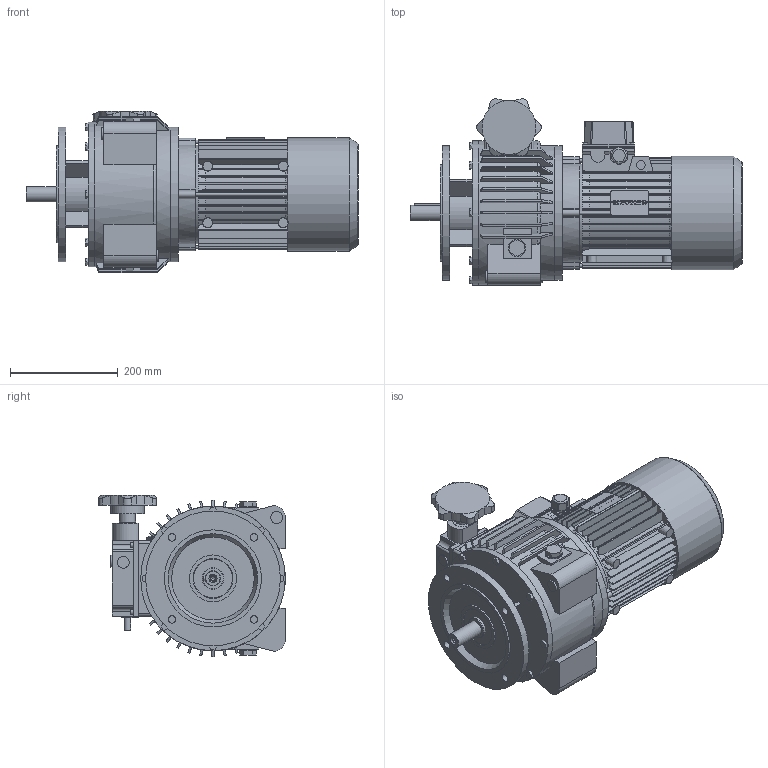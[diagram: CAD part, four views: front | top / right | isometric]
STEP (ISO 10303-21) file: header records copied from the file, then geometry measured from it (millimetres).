
FILE_DESCRIPTION(/* description */ ('STEP AP203'),/* implementation_level */ '2;1');
FILE_NAME(/* name */ 'S_050_S_M_F_250x28_250_28x60_CM_AD_1_TP_112_112M4_IC411_B5_A002_STD_1',/* time_stamp */ '2026-07-08T09:31:25+02:00',/* author */ ('License CC BY-ND 4.0'),/* organization */ ('CADENAS'),/* preprocessor_version */ 'ST-DEVELOPER v20',/* originating_system */ 'PARTsolutions',/* authorisation */ ' ');
FILE_SCHEMA (('CONFIG_CONTROL_DESIGN'));
Products named in the file (14): S 050 S M F 250x28 250 28x60 CM AD 1 TP 112 112M4 IC411 B5 A002 STD 1; Body-10103001050S; 1010300425; 10103010281; 11403012; FLANGIA_TP112B5-; CARCASSA_TP112M4112IC411B528X60NONO--; COPRIMORSETTIERA_TP112A002; PRESSACAVO_3; COP_TP_112M4_IC411_NO_-_-_-_-_STD; TIPPO_25; ALBERO_TP11228X60NO; 10103003; 10103026
Assembly tree (13 placements, depth 2):
  S 050 S M F 250x28 250 28x60 CM AD 1 TP 112 112M4 IC411 B5 A002 STD 1
    Body-10103001050S
    1010300425
    10103010281
    11403012
    FLANGIA_TP112B5-
    CARCASSA_TP112M4112IC411B528X60NONO--
    COPRIMORSETTIERA_TP112A002
    PRESSACAVO_3
    COP_TP_112M4_IC411_NO_-_-_-_-_STD
    TIPPO_25
    ALBERO_TP11228X60NO
    10103003
    10103026
Bounding box: 615.5 x 345.8 x 299 mm (x, y, z)
Volume: 22660982.5 mm3; surface area: 1466100.1 mm2
Topology: 13 solids, 13 shells, 2370 faces, 6406 edges, 4213 vertices
Faces by surface type: plane 1277, cylinder 897, cone 156, torus 27, bspline 8, sphere 5
Full cylindrical faces by diameter (mm): 1.8 x1, 2.02 x1, 5 x3, 5.5 x2, 6 x4, 8 x4, 8.376 x2, 10 x4, 10.106 x4, 10.5 x2, 12 x2, 14 x4, 15 x4, 16 x2, 20 x1, 22 x6, 25 x3, 28 x2, 30 x3, 32 x2, 37 x1, 40 x1, 50 x1, 54 x1, 55 x1, 62 x1, 87 x1, 178 x2, 180 x3, 183 x2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
Entity records: 74824 total; most frequent: CARTESIAN_POINT 14216, DIRECTION 12836, ORIENTED_EDGE 12508, EDGE_CURVE 6254, AXIS2_PLACEMENT_3D 4589, VERTEX_POINT 4175, LINE 3658, VECTOR 3658
